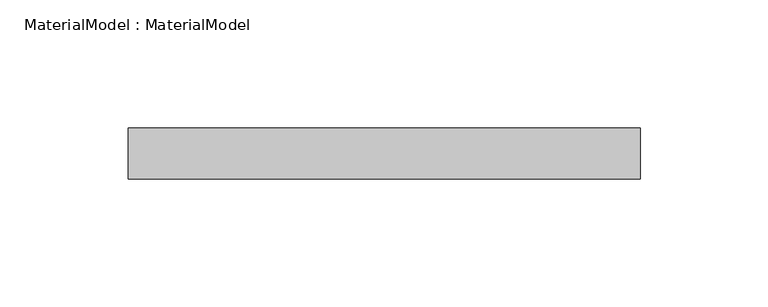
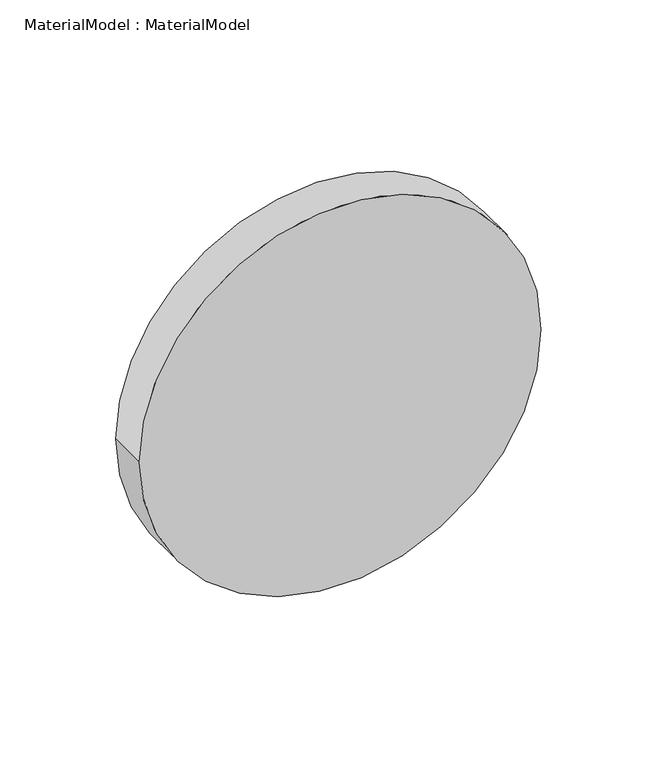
"""IFC4 building model written with IfcOpenShell, lengths in millimetres: proxy geometry, MaterialModel : MaterialModel."""

from ifc_helpers import new_model, si_unit, point, frame, frame_2d, origin, place, context, project, spatial, circle_curve, trimmed, segment, composite_curve, outline, extrude, source, transform, mapped, element, save


def materialmodel_materialmodel_eea4b46c(model_context):
    return source(origin(), model_context, "Body", "SweptSolid", [
        extrude(outline(composite_curve([segment(trimmed(circle_curve(frame_2d((10.0, 0.0)), 100.0), [point((10.0, -100.0))], [point((10.0, 100.0))], False, "CARTESIAN"), True, "CONTINUOUS"), segment(trimmed(circle_curve(frame_2d((10.0, 0.0)), 100.0), [point((10.0, 100.0))], [point((10.0, -100.0))], False, "CARTESIAN"), True, "CONTINUOUS")], self_intersect=False)), frame((0.0, -10.0, 0.0), z_axis=(0.0, 1.0, 0.0), x_axis=(0.0, 0.0, 1.0)), (0.0, 0.0, 1.0), 20.0),
    ])


if __name__ == "__main__":
    model = new_model("IFC4")
    model_context = context("Model", 3, world=origin())
    ifc_project = project(units=[si_unit("LENGTHUNIT", "METRE", prefix="MILLI")], contexts=[model_context])
    site = spatial("IfcSite", under=ifc_project)
    building = spatial("IfcBuilding", under=site)
    placement = place(None, origin())
    materialmodel_materialmodel_shape = materialmodel_materialmodel_eea4b46c(model_context)
    element("IfcBuildingElementProxy", 1, Name="MaterialModel : MaterialModel", ObjectType="MaterialModel : MaterialModel", at=placement, inside=building, context=model_context, shape_type="MappedRepresentation", body=[
        mapped(materialmodel_materialmodel_shape, transform((0.0, 0.0, 0.0), x_axis=(1.0, 0.0, 0.0), y_axis=(0.0, 1.0, 0.0), z_axis=(0.0, 0.0, 1.0))),
    ])
    save(model, "model.ifc")
